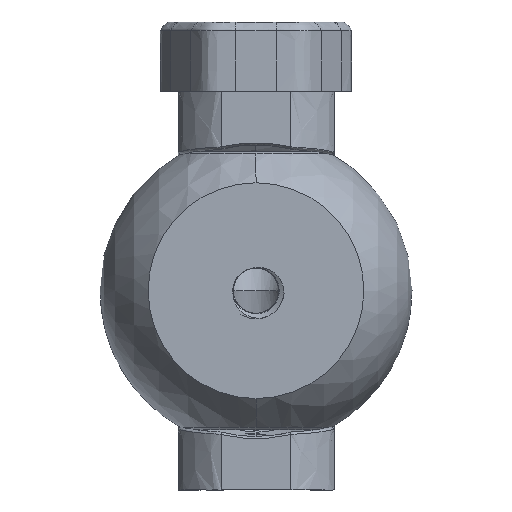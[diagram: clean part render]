
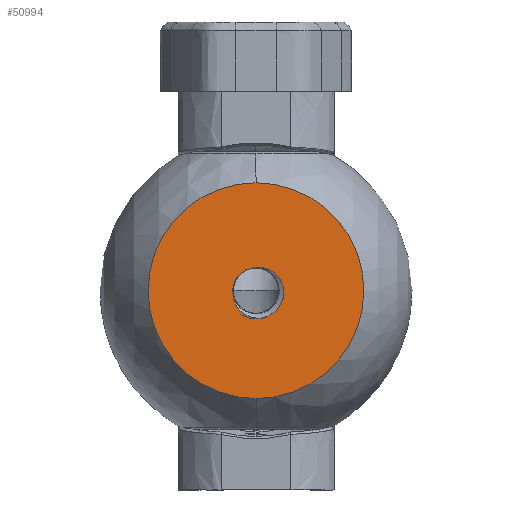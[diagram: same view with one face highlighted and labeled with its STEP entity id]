
A CAD part, front view. The second image highlights one B-rep face of the part: STEP entity #50994.
In plain terms, the highlighted planar face has unit normal (0, -1, 0).
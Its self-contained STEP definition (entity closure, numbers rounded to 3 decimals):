
#276 = CARTESIAN_POINT ( 'NONE',  ( -2.139, -13., -1.938 ) ) ;
#289 = VERTEX_POINT ( 'NONE', #30422 ) ;
#456 = CARTESIAN_POINT ( 'NONE',  ( -0.279, -13., -3.135 ) ) ;
#632 = CARTESIAN_POINT ( 'NONE',  ( -2.511, -13., -1.207 ) ) ;
#844 = CARTESIAN_POINT ( 'NONE',  ( -2.648, -13., -0.206 ) ) ;
#904 = EDGE_LOOP ( 'NONE', ( #52514, #26536, #38175, #17794 ) ) ;
#1202 = CARTESIAN_POINT ( 'NONE',  ( -2.389, -13., 1.08 ) ) ;
#3250 = B_SPLINE_CURVE_WITH_KNOTS ( 'NONE', 3,
 ( #42024, #17676, #44405, #28922, #24679, #32135, #7786, #11882, #15964, #52774, #48485, #24160, #52599, #28229, #20236, #3842 ),
 .UNSPECIFIED., .F., .F.,
 ( 4, 2, 2, 2, 2, 2, 2, 4 ),
 ( 0., 0.001, 0.001, 0.002, 0.002, 0.003, 0.004, 0.005 ),
 .UNSPECIFIED. ) ;
#3842 = CARTESIAN_POINT ( 'NONE',  ( 3.237, -13., -0.291 ) ) ;
#4200 = CARTESIAN_POINT ( 'NONE',  ( -0.868, -13., -2.953 ) ) ;
#4375 = DIRECTION ( 'NONE',  ( 0., 0., 1. ) ) ;
#4911 = AXIS2_PLACEMENT_3D ( 'NONE', #38937, #47467, #39113 ) ;
#5124 = CARTESIAN_POINT ( 'NONE',  ( -1.251, -13., 2.307 ) ) ;
#5299 = CARTESIAN_POINT ( 'NONE',  ( -1.851, -13., 1.851 ) ) ;
#6199 = CARTESIAN_POINT ( 'NONE',  ( 0., -13., 0. ) ) ;
#7786 = CARTESIAN_POINT ( 'NONE',  ( 1.611, -13., 2.395 ) ) ;
#8307 = CARTESIAN_POINT ( 'NONE',  ( -1.729, -13., -2.399 ) ) ;
#8473 = CARTESIAN_POINT ( 'NONE',  ( -0.677, -13., -3.027 ) ) ;
#8874 = CARTESIAN_POINT ( 'NONE',  ( -0.178, -13., 2.65 ) ) ;
#9003 = CARTESIAN_POINT ( 'NONE',  ( -1.409, -13., -2.655 ) ) ;
#9404 = CARTESIAN_POINT ( 'NONE',  ( -2.646, -13., -0.016 ) ) ;
#9910 = AXIS2_PLACEMENT_3D ( 'NONE', #37270, #37088, #4375 ) ;
#11882 = CARTESIAN_POINT ( 'NONE',  ( 1.966, -13., 2.18 ) ) ;
#12170 = AXIS2_PLACEMENT_3D ( 'NONE', #6199, #34638, #18645 ) ;
#13163 = CARTESIAN_POINT ( 'NONE',  ( -1.714, -13., 1.98 ) ) ;
#13895 = EDGE_CURVE ( 'NONE', #46717, #30338, #22571, .T. ) ;
#14534 = EDGE_CURVE ( 'NONE', #34049, #22238, #33303, .T. ) ;
#14550 = B_SPLINE_CURVE_WITH_KNOTS ( 'NONE', 3,
 ( #31807, #40307, #49196, #45629, #456, #8473, #4200, #32662, #9003, #8307, #40835, #276, #49375, #16491, #632, #28930, #44929, #28754 ),
 .UNSPECIFIED., .F., .F.,
 ( 4, 2, 2, 2, 2, 2, 2, 2, 4 ),
 ( 0., 0.001, 0.001, 0.002, 0.002, 0.003, 0.004, 0.004, 0.005 ),
 .UNSPECIFIED. ) ;
#15964 = CARTESIAN_POINT ( 'NONE',  ( 2.128, -13., 2.054 ) ) ;
#16491 = CARTESIAN_POINT ( 'NONE',  ( -2.438, -13., -1.401 ) ) ;
#16886 = CARTESIAN_POINT ( 'NONE',  ( -0.912, -13., 2.468 ) ) ;
#17417 = CARTESIAN_POINT ( 'NONE',  ( -2.097, -13., 1.567 ) ) ;
#17676 = CARTESIAN_POINT ( 'NONE',  ( 0.217, -13., 2.696 ) ) ;
#17744 = DIRECTION ( 'NONE',  ( 0., 0., 1. ) ) ;
#17794 = ORIENTED_EDGE ( 'NONE', *, *, #22713, .T. ) ;
#18251 = EDGE_LOOP ( 'NONE', ( #41802, #37806 ) ) ;
#18645 = DIRECTION ( 'NONE',  ( 0., 0., 1. ) ) ;
#20236 = CARTESIAN_POINT ( 'NONE',  ( 3.231, -13., 0.123 ) ) ;
#20712 = CARTESIAN_POINT ( 'NONE',  ( 0., -13., 12.45 ) ) ;
#20808 = CARTESIAN_POINT ( 'NONE',  ( 0.011, -13., 2.671 ) ) ;
#20990 = CARTESIAN_POINT ( 'NONE',  ( -0.457, -13., 2.602 ) ) ;
#21040 = CARTESIAN_POINT ( 'NONE',  ( 3.237, -13., -0.291 ) ) ;
#21348 = CARTESIAN_POINT ( 'NONE',  ( -0.084, -13., 2.66 ) ) ;
#22238 = VERTEX_POINT ( 'NONE', #20712 ) ;
#22571 = B_SPLINE_CURVE_WITH_KNOTS ( 'NONE', 3,
 ( #41419, #25260, #844, #9404, #49940, #37674, #41239, #25608, #1202, #45490, #17417, #5299, #13163, #45837, #5124, #16886, #45313, #20990, #29323, #8874, #21348, #20808 ),
 .UNSPECIFIED., .F., .F.,
 ( 4, 2, 2, 2, 2, 2, 2, 2, 2, 2, 4 ),
 ( 0., 0., 0.001, 0.001, 0.002, 0.002, 0.003, 0.003, 0.004, 0.004, 0.005 ),
 .UNSPECIFIED. ) ;
#22713 = EDGE_CURVE ( 'NONE', #30338, #26052, #3250, .T. ) ;
#24160 = CARTESIAN_POINT ( 'NONE',  ( 2.799, -13., 1.277 ) ) ;
#24679 = CARTESIAN_POINT ( 'NONE',  ( 1.035, -13., 2.612 ) ) ;
#25260 = CARTESIAN_POINT ( 'NONE',  ( -2.643, -13., -0.301 ) ) ;
#25608 = CARTESIAN_POINT ( 'NONE',  ( -2.463, -13., 0.907 ) ) ;
#25890 = CIRCLE ( 'NONE', #9910, 12.45 ) ;
#26052 = VERTEX_POINT ( 'NONE', #21040 ) ;
#26536 = ORIENTED_EDGE ( 'NONE', *, *, #37950, .T. ) ;
#28229 = CARTESIAN_POINT ( 'NONE',  ( 3.146, -13., 0.529 ) ) ;
#28754 = CARTESIAN_POINT ( 'NONE',  ( -2.642, -13., -0.395 ) ) ;
#28922 = CARTESIAN_POINT ( 'NONE',  ( 0.83, -13., 2.656 ) ) ;
#28930 = CARTESIAN_POINT ( 'NONE',  ( -2.611, -13., -0.806 ) ) ;
#29323 = CARTESIAN_POINT ( 'NONE',  ( -0.364, -13., 2.621 ) ) ;
#30101 = FACE_BOUND ( 'NONE', #904, .T. ) ;
#30338 = VERTEX_POINT ( 'NONE', #31803 ) ;
#30422 = CARTESIAN_POINT ( 'NONE',  ( 0.744, -13., -3.164 ) ) ;
#30550 = EDGE_CURVE ( 'NONE', #22238, #34049, #25890, .T. ) ;
#31803 = CARTESIAN_POINT ( 'NONE',  ( 0.011, -13., 2.671 ) ) ;
#31807 = CARTESIAN_POINT ( 'NONE',  ( 0.744, -13., -3.164 ) ) ;
#32135 = CARTESIAN_POINT ( 'NONE',  ( 1.424, -13., 2.481 ) ) ;
#32662 = CARTESIAN_POINT ( 'NONE',  ( -1.233, -13., -2.768 ) ) ;
#33303 = CIRCLE ( 'NONE', #12170, 12.45 ) ;
#33456 = CIRCLE ( 'NONE', #4911, 3.25 ) ;
#33732 = PLANE ( 'NONE',  #36610 ) ;
#34049 = VERTEX_POINT ( 'NONE', #51116 ) ;
#34638 = DIRECTION ( 'NONE',  ( 0., 1., 0. ) ) ;
#36610 = AXIS2_PLACEMENT_3D ( 'NONE', #37820, #41742, #17744 ) ;
#37088 = DIRECTION ( 'NONE',  ( 0., 1., 0. ) ) ;
#37270 = CARTESIAN_POINT ( 'NONE',  ( 0., -13., 0. ) ) ;
#37674 = CARTESIAN_POINT ( 'NONE',  ( -2.612, -13., 0.359 ) ) ;
#37806 = ORIENTED_EDGE ( 'NONE', *, *, #30550, .F. ) ;
#37820 = CARTESIAN_POINT ( 'NONE',  ( 0., -13., 0. ) ) ;
#37950 = EDGE_CURVE ( 'NONE', #289, #46717, #14550, .T. ) ;
#38175 = ORIENTED_EDGE ( 'NONE', *, *, #13895, .T. ) ;
#38373 = FACE_OUTER_BOUND ( 'NONE', #18251, .T. ) ;
#38937 = CARTESIAN_POINT ( 'NONE',  ( 0., -13., 0. ) ) ;
#39113 = DIRECTION ( 'NONE',  ( 0., 0., -1. ) ) ;
#40307 = CARTESIAN_POINT ( 'NONE',  ( 0.539, -13., -3.189 ) ) ;
#40835 = CARTESIAN_POINT ( 'NONE',  ( -1.875, -13., -2.256 ) ) ;
#41239 = CARTESIAN_POINT ( 'NONE',  ( -2.575, -13., 0.545 ) ) ;
#41419 = CARTESIAN_POINT ( 'NONE',  ( -2.642, -13., -0.395 ) ) ;
#41742 = DIRECTION ( 'NONE',  ( 0., 1., 0. ) ) ;
#41802 = ORIENTED_EDGE ( 'NONE', *, *, #14534, .F. ) ;
#42024 = CARTESIAN_POINT ( 'NONE',  ( 0.011, -13., 2.671 ) ) ;
#44405 = CARTESIAN_POINT ( 'NONE',  ( 0.422, -13., 2.698 ) ) ;
#44929 = CARTESIAN_POINT ( 'NONE',  ( -2.638, -13., -0.602 ) ) ;
#45313 = CARTESIAN_POINT ( 'NONE',  ( -0.731, -13., 2.533 ) ) ;
#45490 = CARTESIAN_POINT ( 'NONE',  ( -2.206, -13., 1.411 ) ) ;
#45629 = CARTESIAN_POINT ( 'NONE',  ( -0.074, -13., -3.168 ) ) ;
#45837 = CARTESIAN_POINT ( 'NONE',  ( -1.411, -13., 2.209 ) ) ;
#46649 = CARTESIAN_POINT ( 'NONE',  ( -2.642, -13., -0.395 ) ) ;
#46717 = VERTEX_POINT ( 'NONE', #46649 ) ;
#47467 = DIRECTION ( 'NONE',  ( 0., -1., 0. ) ) ;
#48485 = CARTESIAN_POINT ( 'NONE',  ( 2.563, -13., 1.613 ) ) ;
#49196 = CARTESIAN_POINT ( 'NONE',  ( 0.334, -13., -3.195 ) ) ;
#49375 = CARTESIAN_POINT ( 'NONE',  ( -2.253, -13., -1.765 ) ) ;
#49940 = CARTESIAN_POINT ( 'NONE',  ( -2.641, -13., 0.078 ) ) ;
#50260 = EDGE_CURVE ( 'NONE', #289, #26052, #33456, .T. ) ;
#50994 = ADVANCED_FACE ( 'NONE', ( #30101, #38373 ), #33732, .F. ) ;
#51116 = CARTESIAN_POINT ( 'NONE',  ( 0., -13., -12.45 ) ) ;
#52514 = ORIENTED_EDGE ( 'NONE', *, *, #50260, .F. ) ;
#52599 = CARTESIAN_POINT ( 'NONE',  ( 2.899, -13., 1.098 ) ) ;
#52774 = CARTESIAN_POINT ( 'NONE',  ( 2.427, -13., 1.772 ) ) ;
